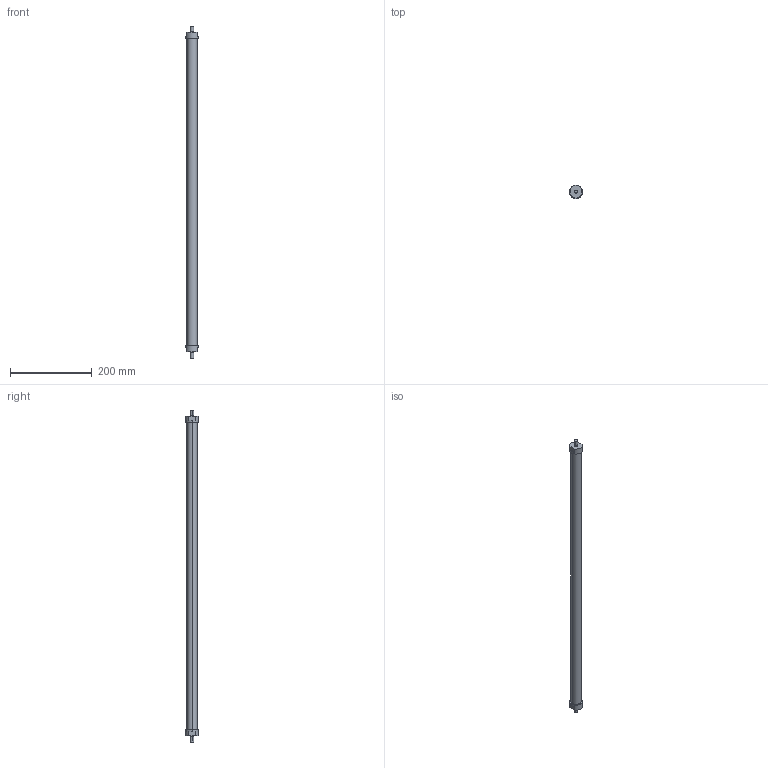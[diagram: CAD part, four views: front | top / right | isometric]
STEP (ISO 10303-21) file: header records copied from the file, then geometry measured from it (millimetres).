
FILE_DESCRIPTION(('STEP AP214'),'1');
FILE_NAME('ETT-R050N794.stp','2015-02-02T15:49:30',(' '),(' '),'Spatial InterOp 3D',' ',' ');
FILE_SCHEMA(('automotive_design'));
Length unit declared in the file: metre
Products named in the file (3): 1; 2; 3
Bounding box: 31 x 31 x 814 mm (x, y, z)
Volume: 393124.9 mm3; surface area: 65446.4 mm2
Topology: 1 solids, 7 shells, 30 faces, 81 edges, 63 vertices
Faces by surface type: plane 16, cylinder 14
Entity records: 1295 total; most frequent: DIRECTION 194, CARTESIAN_POINT 177, ORIENTED_EDGE 138, EDGE_CURVE 81, AXIS2_PLACEMENT_3D 80, VERTEX_POINT 63, CIRCLE 47, EDGE_LOOP 36
